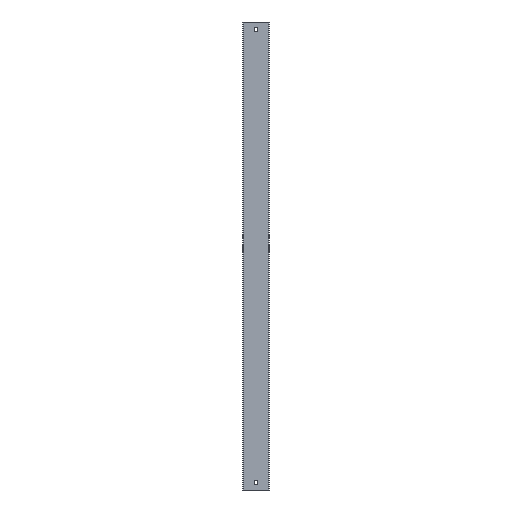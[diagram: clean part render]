
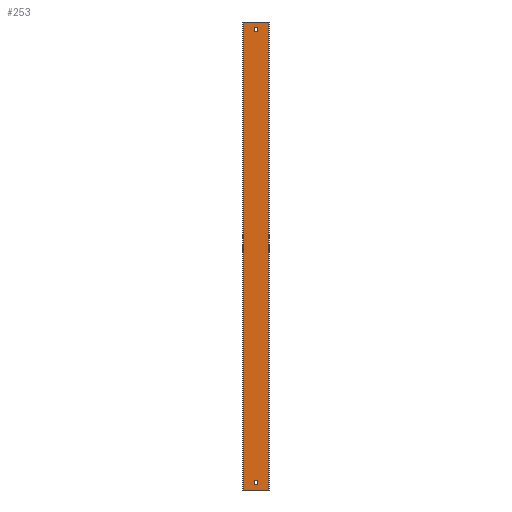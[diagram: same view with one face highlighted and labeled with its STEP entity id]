
A CAD part, front view. The second image highlights one B-rep face of the part: STEP entity #253.
In plain terms, the highlighted planar face has unit normal (0, -1, 0).
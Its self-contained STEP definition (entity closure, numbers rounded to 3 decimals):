
#5 = LINE ( 'NONE', #185, #542 ) ;
#6 = VECTOR ( 'NONE', #520, 1000. ) ;
#9 = CARTESIAN_POINT ( 'NONE',  ( 3.25, -1.5, 479. ) ) ;
#12 = EDGE_CURVE ( 'NONE', #31, #412, #132, .T. ) ;
#14 = EDGE_LOOP ( 'NONE', ( #369, #335, #215, #339 ) ) ;
#17 = DIRECTION ( 'NONE',  ( 1., 0., 0. ) ) ;
#20 = EDGE_CURVE ( 'NONE', #196, #328, #184, .T. ) ;
#31 = VERTEX_POINT ( 'NONE', #9 ) ;
#32 = CARTESIAN_POINT ( 'NONE',  ( -28.5, -1.5, 500. ) ) ;
#44 = VECTOR ( 'NONE', #236, 1000. ) ;
#45 = CARTESIAN_POINT ( 'NONE',  ( 3.25, -1.5, 488. ) ) ;
#47 = ORIENTED_EDGE ( 'NONE', *, *, #90, .T. ) ;
#50 = CARTESIAN_POINT ( 'NONE',  ( 3.25, -1.5, 500. ) ) ;
#53 = DIRECTION ( 'NONE',  ( -1., 0., 0. ) ) ;
#55 = VECTOR ( 'NONE', #509, 1000. ) ;
#62 = PLANE ( 'NONE',  #515 ) ;
#68 = VECTOR ( 'NONE', #77, 1000. ) ;
#76 = VERTEX_POINT ( 'NONE', #372 ) ;
#77 = DIRECTION ( 'NONE',  ( -1., 0., 0. ) ) ;
#79 = EDGE_CURVE ( 'NONE', #328, #531, #246, .T. ) ;
#81 = ORIENTED_EDGE ( 'NONE', *, *, #12, .F. ) ;
#87 = LINE ( 'NONE', #273, #179 ) ;
#90 = EDGE_CURVE ( 'NONE', #366, #76, #323, .T. ) ;
#102 = FACE_BOUND ( 'NONE', #281, .T. ) ;
#106 = EDGE_CURVE ( 'NONE', #549, #314, #417, .T. ) ;
#111 = EDGE_CURVE ( 'NONE', #196, #140, #87, .T. ) ;
#122 = VECTOR ( 'NONE', #380, 1000. ) ;
#123 = EDGE_CURVE ( 'NONE', #76, #271, #464, .T. ) ;
#127 = VECTOR ( 'NONE', #229, 1000. ) ;
#132 = LINE ( 'NONE', #421, #55 ) ;
#136 = EDGE_CURVE ( 'NONE', #191, #366, #198, .T. ) ;
#138 = CARTESIAN_POINT ( 'NONE',  ( -3.25, -1.5, -479. ) ) ;
#140 = VERTEX_POINT ( 'NONE', #283 ) ;
#150 = VECTOR ( 'NONE', #17, 1000. ) ;
#156 = ORIENTED_EDGE ( 'NONE', *, *, #136, .T. ) ;
#172 = EDGE_CURVE ( 'NONE', #140, #531, #397, .T. ) ;
#179 = VECTOR ( 'NONE', #331, 1000. ) ;
#184 = LINE ( 'NONE', #560, #326 ) ;
#185 = CARTESIAN_POINT ( 'NONE',  ( -28.5, -1.5, -488. ) ) ;
#191 = VERTEX_POINT ( 'NONE', #527 ) ;
#195 = CARTESIAN_POINT ( 'NONE',  ( -28.5, -1.5, -479. ) ) ;
#196 = VERTEX_POINT ( 'NONE', #300 ) ;
#198 = LINE ( 'NONE', #376, #122 ) ;
#199 = ORIENTED_EDGE ( 'NONE', *, *, #220, .F. ) ;
#209 = LINE ( 'NONE', #435, #150 ) ;
#212 = FACE_BOUND ( 'NONE', #561, .T. ) ;
#215 = ORIENTED_EDGE ( 'NONE', *, *, #111, .T. ) ;
#220 = EDGE_CURVE ( 'NONE', #314, #31, #209, .T. ) ;
#229 = DIRECTION ( 'NONE',  ( 1., 0., 0. ) ) ;
#233 = DIRECTION ( 'NONE',  ( 0., 0., -1. ) ) ;
#236 = DIRECTION ( 'NONE',  ( 0., 0., -1. ) ) ;
#241 = VECTOR ( 'NONE', #53, 1000. ) ;
#246 = LINE ( 'NONE', #588, #241 ) ;
#253 = ADVANCED_FACE ( 'NONE', ( #212, #516, #102 ), #62, .T. ) ;
#259 = CARTESIAN_POINT ( 'NONE',  ( -27., -1.5, -500. ) ) ;
#260 = CARTESIAN_POINT ( 'NONE',  ( -27., -1.5, 500. ) ) ;
#266 = CARTESIAN_POINT ( 'NONE',  ( -3.25, -1.5, 479. ) ) ;
#271 = VERTEX_POINT ( 'NONE', #539 ) ;
#273 = CARTESIAN_POINT ( 'NONE',  ( -28.5, -1.5, 500. ) ) ;
#281 = EDGE_LOOP ( 'NONE', ( #589, #156, #47, #567 ) ) ;
#283 = CARTESIAN_POINT ( 'NONE',  ( -27., -1.5, 500. ) ) ;
#300 = CARTESIAN_POINT ( 'NONE',  ( 27., -1.5, 500. ) ) ;
#310 = EDGE_CURVE ( 'NONE', #412, #549, #540, .T. ) ;
#314 = VERTEX_POINT ( 'NONE', #266 ) ;
#323 = LINE ( 'NONE', #195, #127 ) ;
#326 = VECTOR ( 'NONE', #554, 1000. ) ;
#328 = VERTEX_POINT ( 'NONE', #448 ) ;
#331 = DIRECTION ( 'NONE',  ( -1., 0., 0. ) ) ;
#335 = ORIENTED_EDGE ( 'NONE', *, *, #20, .F. ) ;
#339 = ORIENTED_EDGE ( 'NONE', *, *, #172, .T. ) ;
#355 = EDGE_CURVE ( 'NONE', #271, #191, #5, .T. ) ;
#357 = DIRECTION ( 'NONE',  ( 0., -1., 0. ) ) ;
#361 = DIRECTION ( 'NONE',  ( 0., 0., -1. ) ) ;
#366 = VERTEX_POINT ( 'NONE', #138 ) ;
#369 = ORIENTED_EDGE ( 'NONE', *, *, #79, .F. ) ;
#372 = CARTESIAN_POINT ( 'NONE',  ( 3.25, -1.5, -479. ) ) ;
#376 = CARTESIAN_POINT ( 'NONE',  ( -3.25, -1.5, 500. ) ) ;
#380 = DIRECTION ( 'NONE',  ( 0., 0., 1. ) ) ;
#397 = LINE ( 'NONE', #260, #6 ) ;
#412 = VERTEX_POINT ( 'NONE', #45 ) ;
#417 = LINE ( 'NONE', #501, #443 ) ;
#421 = CARTESIAN_POINT ( 'NONE',  ( 3.25, -1.5, 500. ) ) ;
#435 = CARTESIAN_POINT ( 'NONE',  ( -28.5, -1.5, 479. ) ) ;
#442 = ORIENTED_EDGE ( 'NONE', *, *, #106, .F. ) ;
#443 = VECTOR ( 'NONE', #233, 1000. ) ;
#448 = CARTESIAN_POINT ( 'NONE',  ( 27., -1.5, -500. ) ) ;
#464 = LINE ( 'NONE', #50, #44 ) ;
#484 = CARTESIAN_POINT ( 'NONE',  ( -3.25, -1.5, 488. ) ) ;
#501 = CARTESIAN_POINT ( 'NONE',  ( -3.25, -1.5, 500. ) ) ;
#509 = DIRECTION ( 'NONE',  ( 0., 0., 1. ) ) ;
#515 = AXIS2_PLACEMENT_3D ( 'NONE', #32, #357, #361 ) ;
#516 = FACE_OUTER_BOUND ( 'NONE', #14, .T. ) ;
#520 = DIRECTION ( 'NONE',  ( 0., 0., -1. ) ) ;
#527 = CARTESIAN_POINT ( 'NONE',  ( -3.25, -1.5, -488. ) ) ;
#531 = VERTEX_POINT ( 'NONE', #259 ) ;
#539 = CARTESIAN_POINT ( 'NONE',  ( 3.25, -1.5, -488. ) ) ;
#540 = LINE ( 'NONE', #579, #68 ) ;
#542 = VECTOR ( 'NONE', #544, 1000. ) ;
#544 = DIRECTION ( 'NONE',  ( -1., 0., 0. ) ) ;
#546 = ORIENTED_EDGE ( 'NONE', *, *, #310, .F. ) ;
#549 = VERTEX_POINT ( 'NONE', #484 ) ;
#554 = DIRECTION ( 'NONE',  ( 0., 0., -1. ) ) ;
#560 = CARTESIAN_POINT ( 'NONE',  ( 27., -1.5, 500. ) ) ;
#561 = EDGE_LOOP ( 'NONE', ( #442, #546, #81, #199 ) ) ;
#567 = ORIENTED_EDGE ( 'NONE', *, *, #123, .T. ) ;
#579 = CARTESIAN_POINT ( 'NONE',  ( -28.5, -1.5, 488. ) ) ;
#588 = CARTESIAN_POINT ( 'NONE',  ( -28.5, -1.5, -500. ) ) ;
#589 = ORIENTED_EDGE ( 'NONE', *, *, #355, .T. ) ;
